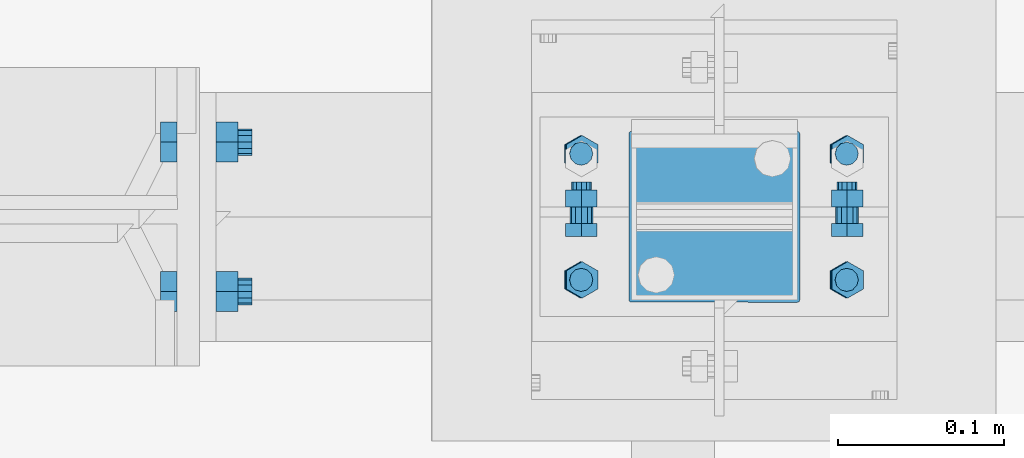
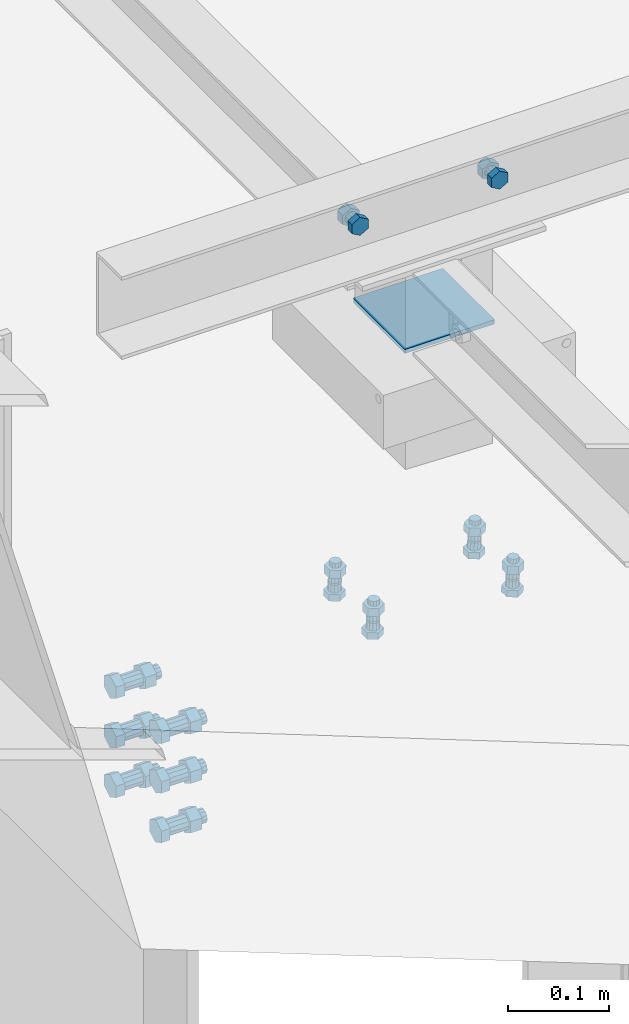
# One storey, part 321 of 3134: 5 mechanical fasteners, 5 elements without a shape of their own.
"""IFC2X3 building model written with IfcOpenShell, lengths in millimetres."""

from ifc_helpers import new_model, si_unit, frame, origin_with_axes, place, context, subcontext, project, spatial, faceted_brep, source, transform, mapped, material, type_object, element, aggregate, save


model = new_model("IFC2X3")

# Units and contexts
model_context = context("Model", 3, precision=1e-05, world=origin_with_axes())
body_context = subcontext(model_context, "Body", "Model", "MODEL_VIEW")
ifc_project = project(units=[si_unit("LENGTHUNIT", "METRE", prefix="MILLI"), si_unit("AREAUNIT", "SQUARE_METRE"), si_unit("VOLUMEUNIT", "CUBIC_METRE"), si_unit("MASSUNIT", "GRAM", prefix="KILO"), si_unit("TIMEUNIT", "SECOND"), si_unit("PLANEANGLEUNIT", "RADIAN"), si_unit("SOLIDANGLEUNIT", "STERADIAN"), si_unit("THERMODYNAMICTEMPERATUREUNIT", "DEGREE_CELSIUS"), si_unit("LUMINOUSINTENSITYUNIT", "LUMEN")], contexts=[model_context])

# Site, building, storey
site_placement = place(None, origin_with_axes())
site = spatial("IfcSite", under=ifc_project, at=site_placement, CompositionType="ELEMENT")
building_placement = place(site_placement, origin_with_axes())
building = spatial("IfcBuilding", under=site, at=building_placement, Name="Undefined", CompositionType="ELEMENT")
storey_placement = place(building_placement, origin_with_axes())
storey = spatial("IfcBuildingStorey", under=building, at=storey_placement, Name="Undefined", CompositionType="ELEMENT", Elevation=0.0)

# Assembly, mechanical fastener
assembly_1_placement = place(storey_placement, origin_with_axes())
assembly_1 = element("IfcElementAssembly", 1, at=assembly_1_placement, inside=storey, Name="IPE400", AssemblyPlace="NOTDEFINED", PredefinedType="RIGID_FRAME")
ifc_material_1 = material(Name="8.8")
mechanical_fastener_type = type_object("IfcMechanicalFastenerType", Name="Bolt assembly")
shared_shape_1 = source(origin_with_axes(), body_context, "Body", "Brep", [
    faceted_brep([(13.856406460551, -33.499999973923, 0.0), (6.92820323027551, -33.499999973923, 12.0), (-6.92820323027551, -33.499999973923, 12.0), (-13.856406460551, -33.499999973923, 1.69692038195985e-15), (-6.92820323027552, -33.499999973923, -12.0), (6.9282032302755, -33.499999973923, -12.0), (6.9282032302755, -23.499999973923, -12.0), (-6.92820323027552, -23.499999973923, -12.0), (-13.856406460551, -23.499999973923, 1.69692038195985e-15), (-6.92820323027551, -23.499999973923, 12.0), (6.92820323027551, -23.499999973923, 12.0), (13.856406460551, -23.499999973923, 0.0), (8.0, -23.499999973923, 0.0), (6.92820323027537, -23.499999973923, 4.00000000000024), (3.99999999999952, -23.499999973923, 6.92820323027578), (-8.29068785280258e-13, -23.499999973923, 8.0), (-4.00000000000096, -23.499999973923, 6.92820323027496), (-6.9282032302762, -23.499999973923, 3.99999999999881), (-8.0, -23.499999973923, -1.65813757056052e-12), (-6.92820323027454, -23.499999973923, -4.00000000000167), (-3.99999999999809, -23.499999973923, -6.92820323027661), (2.47832457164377e-12, -23.499999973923, -8.0), (4.00000000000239, -23.499999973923, -6.92820323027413), (6.92820323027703, -23.499999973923, -3.99999999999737), (6.92820323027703, 21.500000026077, -3.99999999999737), (4.00000000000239, 21.500000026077, -6.92820323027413), (2.47832457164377e-12, 21.500000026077, -8.0), (-3.99999999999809, 21.500000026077, -6.92820323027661), (-6.92820323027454, 21.500000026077, -4.00000000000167), (-8.0, 21.500000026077, -1.65813757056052e-12), (-6.9282032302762, 21.500000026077, 3.99999999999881), (-4.00000000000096, 21.500000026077, 6.92820323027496), (-8.29068785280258e-13, 21.500000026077, 8.0), (3.99999999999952, 21.500000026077, 6.92820323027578), (6.92820323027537, 21.500000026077, 4.00000000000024), (8.0, 21.500000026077, 0.0), (13.856406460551, 0.0, 0.0), (6.92820323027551, 0.0, 12.0), (-6.92820323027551, 0.0, 12.0), (-13.856406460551, 0.0, 1.69692038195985e-15), (-6.92820323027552, 0.0, -12.0), (6.9282032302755, 0.0, -12.0), (6.9282032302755, 12.9999996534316, -12.0), (-6.92820323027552, 12.9999996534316, -12.0), (-13.856406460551, 12.9999996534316, 1.69692038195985e-15), (-6.92820323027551, 12.9999996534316, 12.0), (6.92820323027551, 12.9999996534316, 12.0), (13.856406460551, 12.9999996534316, 0.0)], [[[0, 1, 2, 3, 4, 5]], [[6, 7, 8, 9, 10, 11]], [[0, 11, 10, 1]], [[1, 10, 9, 2]], [[2, 9, 8, 3]], [[3, 8, 7, 4]], [[4, 7, 6, 5]], [[5, 6, 11, 0]], [[12, 13, 14, 15, 16, 17, 18, 19, 20, 21, 22, 23]], [[24, 25, 26, 27, 28, 29, 30, 31, 32, 33, 34, 35]], [[12, 35, 34, 13]], [[13, 34, 33, 14]], [[14, 33, 32, 15]], [[15, 32, 31, 16]], [[16, 31, 30, 17]], [[17, 30, 29, 18]], [[18, 29, 28, 19]], [[19, 28, 27, 20]], [[20, 27, 26, 21]], [[21, 26, 25, 22]], [[22, 25, 24, 23]], [[23, 24, 35, 12]], [[36, 37, 38, 39, 40, 41]], [[42, 43, 44, 45, 46, 47]], [[36, 47, 46, 37]], [[37, 46, 45, 38]], [[38, 45, 44, 39]], [[39, 44, 43, 40]], [[40, 43, 42, 41]], [[41, 42, 47, 36]]]),
    faceted_brep([(9.0, -10.1000003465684, 0.0), (7.79422863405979, -10.1000003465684, 4.50000000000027), (4.49999999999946, -10.1000003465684, 7.79422863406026), (-9.3270238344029e-13, -10.1000003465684, 9.0), (-4.50000000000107, -10.1000003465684, 7.79422863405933), (-7.79422863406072, -10.1000003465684, 4.49999999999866), (-9.0, -10.1000003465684, -1.86540476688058e-12), (-7.79422863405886, -10.1000003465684, -4.50000000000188), (-4.49999999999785, -10.1000003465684, -7.79422863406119), (2.78811514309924e-12, -10.1000003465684, -9.0), (4.50000000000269, -10.1000003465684, -7.7942286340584), (7.79422863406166, -10.1000003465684, -4.49999999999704), (7.79422863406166, -3.46568413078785e-07, -4.49999999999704), (4.50000000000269, -3.46568413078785e-07, -7.7942286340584), (2.78811514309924e-12, -3.46568413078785e-07, -9.0), (-4.49999999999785, -3.46568413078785e-07, -7.79422863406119), (-7.79422863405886, -3.46568413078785e-07, -4.50000000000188), (-9.0, -3.46568413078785e-07, -1.86540476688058e-12), (-7.79422863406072, -3.46568413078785e-07, 4.49999999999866), (-4.50000000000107, -3.46568413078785e-07, 7.79422863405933), (-9.3270238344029e-13, -3.46568413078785e-07, 9.0), (4.49999999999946, -3.46568413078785e-07, 7.79422863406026), (7.79422863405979, -3.46568413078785e-07, 4.50000000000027), (9.0, -3.46568413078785e-07, 0.0), (9.0, -23.399999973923, 0.0), (7.79422863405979, -23.399999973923, 4.50000000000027), (4.49999999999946, -23.399999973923, 7.79422863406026), (-9.3270238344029e-13, -23.399999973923, 9.0), (-4.50000000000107, -23.399999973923, 7.79422863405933), (-7.79422863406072, -23.399999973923, 4.49999999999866), (-9.0, -23.399999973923, -1.86540476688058e-12), (-7.79422863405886, -23.399999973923, -4.50000000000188), (-4.49999999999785, -23.399999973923, -7.79422863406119), (2.78811514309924e-12, -23.399999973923, -9.0), (4.50000000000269, -23.399999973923, -7.7942286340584), (7.79422863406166, -23.399999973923, -4.49999999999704), (7.79422863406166, -9.89999997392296, -4.49999999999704), (4.50000000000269, -9.89999997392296, -7.7942286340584), (2.78811514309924e-12, -9.89999997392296, -9.0), (-4.49999999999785, -9.89999997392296, -7.79422863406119), (-7.79422863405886, -9.89999997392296, -4.50000000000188), (-9.0, -9.89999997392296, -1.86540476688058e-12), (-7.79422863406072, -9.89999997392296, 4.49999999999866), (-4.50000000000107, -9.89999997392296, 7.79422863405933), (-9.3270238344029e-13, -9.89999997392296, 9.0), (4.49999999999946, -9.89999997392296, 7.79422863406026), (7.79422863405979, -9.89999997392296, 4.50000000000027), (9.0, -9.89999997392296, 0.0)], [[[0, 1, 2, 3, 4, 5, 6, 7, 8, 9, 10, 11]], [[12, 13, 14, 15, 16, 17, 18, 19, 20, 21, 22, 23]], [[0, 23, 22, 1]], [[1, 22, 21, 2]], [[2, 21, 20, 3]], [[3, 20, 19, 4]], [[4, 19, 18, 5]], [[5, 18, 17, 6]], [[6, 17, 16, 7]], [[7, 16, 15, 8]], [[8, 15, 14, 9]], [[9, 14, 13, 10]], [[10, 13, 12, 11]], [[11, 12, 23, 0]], [[24, 25, 26, 27, 28, 29, 30, 31, 32, 33, 34, 35]], [[36, 37, 38, 39, 40, 41, 42, 43, 44, 45, 46, 47]], [[24, 47, 46, 25]], [[25, 46, 45, 26]], [[26, 45, 44, 27]], [[27, 44, 43, 28]], [[28, 43, 42, 29]], [[29, 42, 41, 30]], [[30, 41, 40, 31]], [[31, 40, 39, 32]], [[32, 39, 38, 33]], [[33, 38, 37, 34]], [[34, 37, 36, 35]], [[35, 36, 47, 24]]]),
])
mechanical_fastener_1_placement = place(assembly_1_placement, frame((67825.0000003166, 7650.0, 5261.47113578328), z_axis=(0.0, 1.0, 0.0), x_axis=(0.0, 0.0, 1.0)))
mechanical_fastener_1 = element("IfcMechanicalFastener", 2, at=mechanical_fastener_1_placement, type_object=mechanical_fastener_type, material=ifc_material_1, Name="Bolt assembly", NominalDiameter=16.0, NominalLength=45.0, context=body_context, shape_type="MappedRepresentation", body=[
    mapped(shared_shape_1, transform((0.0, 0.0, -45.0))),
    mapped(shared_shape_1, transform((60.0, 0.0, -45.0))),
    mapped(shared_shape_1, transform((120.0, 0.0, -45.0))),
    mapped(shared_shape_1, transform((0.0, 0.0, 45.0))),
    mapped(shared_shape_1, transform((60.0, 0.0, 45.0))),
    mapped(shared_shape_1, transform((120.0, 0.0, 45.0))),
])
aggregate(assembly_1, [mechanical_fastener_1])

assembly_2_placement = place(storey_placement, origin_with_axes())
assembly_2 = element("IfcElementAssembly", 3, at=assembly_2_placement, inside=storey, AssemblyPlace="NOTDEFINED", PredefinedType="RIGID_FRAME")
shared_shape_2 = source(origin_with_axes(), body_context, "Body", "Brep", [
    faceted_brep([(7.0, 13.0000253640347, 0.0), (6.06217782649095, 13.0000253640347, 3.50000000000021), (3.49999999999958, 13.0000253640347, 6.06217782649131), (-7.25435187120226e-13, 13.0000253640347, 7.0), (-3.50000000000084, 13.0000253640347, 6.06217782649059), (-6.06217782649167, 13.0000253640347, 3.49999999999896), (-7.0, 13.0000253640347, -1.45087037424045e-12), (-6.06217782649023, 13.0000253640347, -3.50000000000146), (-3.49999999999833, 13.0000253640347, -6.06217782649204), (2.1685340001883e-12, 13.0000253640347, -7.0), (3.50000000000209, 13.0000253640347, -6.06217782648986), (6.0621778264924, 13.0000253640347, -3.4999999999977), (6.0621778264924, 15.0999999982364, -3.4999999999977), (3.50000000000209, 15.0999999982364, -6.06217782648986), (2.1685340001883e-12, 15.0999999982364, -7.0), (-3.49999999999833, 15.0999999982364, -6.06217782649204), (-6.06217782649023, 15.0999999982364, -3.50000000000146), (-7.0, 15.0999999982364, -1.45087037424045e-12), (-6.06217782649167, 15.0999999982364, 3.49999999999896), (-3.50000000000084, 15.0999999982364, 6.06217782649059), (-7.25435187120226e-13, 15.0999999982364, 7.0), (3.49999999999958, 15.0999999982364, 6.06217782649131), (6.06217782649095, 15.0999999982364, 3.50000000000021), (7.0, 15.0999999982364, 0.0)], [[[0, 1, 2, 3, 4, 5, 6, 7, 8, 9, 10, 11]], [[12, 13, 14, 15, 16, 17, 18, 19, 20, 21, 22, 23]], [[0, 23, 22, 1]], [[1, 22, 21, 2]], [[2, 21, 20, 3]], [[3, 20, 19, 4]], [[4, 19, 18, 5]], [[5, 18, 17, 6]], [[6, 17, 16, 7]], [[7, 16, 15, 8]], [[8, 15, 14, 9]], [[9, 14, 13, 10]], [[10, 13, 12, 11]], [[11, 12, 23, 0]]]),
])
mechanical_fastener_2_placement = place(assembly_2_placement, frame((68124.3451187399, 7688.0, 5409.1772055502), z_axis=(-0.99951962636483, 0.0, 0.0309922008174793), x_axis=(0.0, -1.0, 0.0)))
mechanical_fastener_2 = element("IfcMechanicalFastener", 4, at=mechanical_fastener_2_placement, type_object=mechanical_fastener_type, material=ifc_material_1, Name="Bolt assembly", NominalDiameter=12.0, NominalLength=2.0, context=body_context, shape_type="MappedRepresentation", body=[
    mapped(shared_shape_2, transform((0.0, -5.32963895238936e-10, -79.9999999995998))),
    mapped(shared_shape_2, transform((76.0, -5.32963895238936e-10, -79.9999999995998))),
    mapped(shared_shape_2, transform((0.0, 5.3114490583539e-10, 79.9999999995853))),
    mapped(shared_shape_2, transform((76.0, 5.3114490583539e-10, 79.9999999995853))),
])
aggregate(assembly_2, [mechanical_fastener_2])

assembly_3_placement = place(storey_placement, origin_with_axes())
assembly_3 = element("IfcElementAssembly", 5, at=assembly_3_placement, inside=storey, AssemblyPlace="NOTDEFINED", PredefinedType="RIGID_FRAME")
ifc_material_2 = material(Name="6.8")
shared_shape_3 = source(origin_with_axes(), body_context, "Body", "Brep", [
    faceted_brep([(51.5, 1.36424205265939e-12, 50.0), (51.3858192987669, 1.36424205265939e-12, 50.5740251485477), (51.0606601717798, 1.36424205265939e-12, 51.0606601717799), (50.5740251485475, 1.36424205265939e-12, 51.385819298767), (-50.0000000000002, 1.36424205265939e-12, 51.5), (-50.7500000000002, 1.36424205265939e-12, 51.2990381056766), (-51.2990381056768, 1.36424205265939e-12, 50.7499999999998), (-51.5, 1.36424205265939e-12, 49.9999999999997), (-51.5, 1.36424205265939e-12, -50.0000000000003), (-51.2990381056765, 1.36424205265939e-12, -50.7500000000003), (-50.7499999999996, 1.36424205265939e-12, -51.2990381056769), (-49.9999999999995, 1.36424205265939e-12, -51.5), (50.0000000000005, 1.36424205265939e-12, -51.5), (50.7500000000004, 1.36424205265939e-12, -51.2990381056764), (51.2990381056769, 1.36424205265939e-12, -50.7499999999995), (51.5, 1.36424205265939e-12, -49.9999999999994), (51.5, 5.10000000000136, -49.9999999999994), (51.2990381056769, 5.10000000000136, -50.7499999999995), (50.7500000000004, 5.10000000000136, -51.2990381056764), (50.0000000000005, 5.10000000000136, -51.5), (-49.9999999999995, 5.10000000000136, -51.5), (-50.7499999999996, 5.10000000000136, -51.2990381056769), (-51.2990381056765, 5.10000000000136, -50.7500000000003), (-51.5, 5.10000000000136, -50.0000000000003), (-51.5, 5.10000000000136, 49.9999999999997), (-51.2990381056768, 5.10000000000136, 50.7499999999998), (-50.7500000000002, 5.10000000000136, 51.2990381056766), (-50.0000000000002, 5.10000000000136, 51.5), (50.5740251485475, 5.10000000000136, 51.385819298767), (51.0606601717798, 5.10000000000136, 51.0606601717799), (51.3858192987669, 5.10000000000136, 50.5740251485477), (51.5, 5.10000000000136, 50.0)], [[[0, 1, 2, 3, 4, 5, 6, 7, 8, 9, 10, 11, 12, 13, 14, 15]], [[16, 17, 18, 19, 20, 21, 22, 23, 24, 25, 26, 27, 28, 29, 30, 31]], [[0, 31, 30, 1]], [[1, 30, 29, 2]], [[2, 29, 28, 3]], [[3, 28, 27, 4]], [[4, 27, 26, 5]], [[5, 26, 25, 6]], [[6, 25, 24, 7]], [[7, 24, 23, 8]], [[8, 23, 22, 9]], [[9, 22, 21, 10]], [[10, 21, 20, 11]], [[11, 20, 19, 12]], [[12, 19, 18, 13]], [[13, 18, 17, 14]], [[14, 17, 16, 15]], [[15, 16, 31, 0]]]),
])
mechanical_fastener_3_placement = place(assembly_3_placement, frame((68125.0, 7650.0, 5750.0), z_axis=(0.0, -1.0, 0.0), x_axis=(-1.0, 0.0, 0.0)))
mechanical_fastener_3 = element("IfcMechanicalFastener", 6, at=mechanical_fastener_3_placement, type_object=mechanical_fastener_type, material=ifc_material_2, Name="Bolt assembly", NominalDiameter=10.0, NominalLength=5.0, context=body_context, shape_type="MappedRepresentation", body=[
    mapped(shared_shape_3, transform((0.0, 0.0, 0.0))),
])
aggregate(assembly_3, [mechanical_fastener_3])

assembly_4_placement = place(storey_placement, origin_with_axes())
assembly_4 = element("IfcElementAssembly", 7, at=assembly_4_placement, inside=storey, AssemblyPlace="NOTDEFINED", PredefinedType="RIGID_FRAME")
shared_shape_4 = source(origin_with_axes(), body_context, "Body", "Brep", [
    faceted_brep([(10.9696551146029, -12.0, 0.0), (5.48482755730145, -12.0, 9.5), (-5.48482755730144, -12.0, 9.5), (-10.9696551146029, -12.0, 1.34339530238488e-15), (-5.48482755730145, -12.0, -9.5), (5.48482755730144, -12.0, -9.50000000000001), (5.48482755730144, -4.0, -9.50000000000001), (-5.48482755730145, -4.0, -9.5), (-10.9696551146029, -4.0, 1.34339530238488e-15), (-5.48482755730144, -4.0, 9.5), (5.48482755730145, -4.0, 9.5), (10.9696551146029, -4.0, 0.0), (6.0, -4.0, 0.0), (5.19615242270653, -4.0, 3.00000000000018), (2.99999999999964, -4.0, 5.19615242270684), (-6.21801588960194e-13, -4.0, 6.0), (-3.00000000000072, -4.0, 5.19615242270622), (-5.19615242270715, -4.0, 2.9999999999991), (-6.0, -4.0, -1.24360317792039e-12), (-5.19615242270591, -4.0, -3.00000000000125), (-2.99999999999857, -4.0, -5.19615242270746), (1.85874342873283e-12, -4.0, -6.0), (3.00000000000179, -4.0, -5.1961524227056), (5.19615242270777, -4.0, -2.99999999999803), (5.19615242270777, 21.0, -2.99999999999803), (3.00000000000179, 21.0, -5.1961524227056), (1.85874342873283e-12, 21.0, -6.0), (-2.99999999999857, 21.0, -5.19615242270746), (-5.19615242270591, 21.0, -3.00000000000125), (-6.0, 21.0, -1.24360317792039e-12), (-5.19615242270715, 21.0, 2.9999999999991), (-3.00000000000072, 21.0, 5.19615242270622), (-6.21801588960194e-13, 21.0, 6.0), (2.99999999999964, 21.0, 5.19615242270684), (5.19615242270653, 21.0, 3.00000000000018), (6.0, 21.0, 0.0), (10.9696551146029, 6.00000000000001, 0.0), (5.48482755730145, 6.00000000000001, 9.5), (-5.48482755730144, 6.00000000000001, 9.5), (-10.9696551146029, 6.00000000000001, 1.34339530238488e-15), (-5.48482755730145, 6.00000000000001, -9.5), (5.48482755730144, 6.00000000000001, -9.50000000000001), (5.48482755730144, 16.0, -9.50000000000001), (-5.48482755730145, 16.0, -9.5), (-10.9696551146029, 16.0, 1.34339530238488e-15), (-5.48482755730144, 16.0, 9.5), (5.48482755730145, 16.0, 9.5), (10.9696551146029, 16.0, 0.0)], [[[0, 1, 2, 3, 4, 5]], [[6, 7, 8, 9, 10, 11]], [[0, 11, 10, 1]], [[1, 10, 9, 2]], [[2, 9, 8, 3]], [[3, 8, 7, 4]], [[4, 7, 6, 5]], [[5, 6, 11, 0]], [[12, 13, 14, 15, 16, 17, 18, 19, 20, 21, 22, 23]], [[24, 25, 26, 27, 28, 29, 30, 31, 32, 33, 34, 35]], [[12, 35, 34, 13]], [[13, 34, 33, 14]], [[14, 33, 32, 15]], [[15, 32, 31, 16]], [[16, 31, 30, 17]], [[17, 30, 29, 18]], [[18, 29, 28, 19]], [[19, 28, 27, 20]], [[20, 27, 26, 21]], [[21, 26, 25, 22]], [[22, 25, 24, 23]], [[23, 24, 35, 12]], [[36, 37, 38, 39, 40, 41]], [[42, 43, 44, 45, 46, 47]], [[36, 47, 46, 37]], [[37, 46, 45, 38]], [[38, 45, 44, 39]], [[39, 44, 43, 40]], [[40, 43, 42, 41]], [[41, 42, 47, 36]]]),
    faceted_brep([(7.0, -3.9, 0.0), (6.06217782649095, -3.9, 3.50000000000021), (3.49999999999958, -3.9, 6.06217782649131), (-7.25435187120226e-13, -3.9, 7.0), (-3.50000000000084, -3.9, 6.06217782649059), (-6.06217782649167, -3.9, 3.49999999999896), (-7.0, -3.9, -1.45087037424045e-12), (-6.06217782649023, -3.9, -3.50000000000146), (-3.49999999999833, -3.9, -6.06217782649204), (2.1685340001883e-12, -3.9, -7.0), (3.50000000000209, -3.9, -6.06217782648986), (6.0621778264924, -3.9, -3.4999999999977), (6.0621778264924, 0.0999999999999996, -3.4999999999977), (3.50000000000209, 0.0999999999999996, -6.06217782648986), (2.1685340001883e-12, 0.0999999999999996, -7.0), (-3.49999999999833, 0.0999999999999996, -6.06217782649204), (-6.06217782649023, 0.0999999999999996, -3.50000000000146), (-7.0, 0.0999999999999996, -1.45087037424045e-12), (-6.06217782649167, 0.0999999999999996, 3.49999999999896), (-3.50000000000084, 0.0999999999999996, 6.06217782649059), (-7.25435187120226e-13, 0.0999999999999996, 7.0), (3.49999999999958, 0.0999999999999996, 6.06217782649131), (6.06217782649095, 0.0999999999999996, 3.50000000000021), (7.0, 0.0999999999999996, 0.0), (7.0, -0.1, 0.0), (6.06217782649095, -0.1, 3.50000000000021), (3.49999999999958, -0.1, 6.06217782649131), (-7.25435187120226e-13, -0.1, 7.0), (-3.50000000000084, -0.1, 6.06217782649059), (-6.06217782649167, -0.1, 3.49999999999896), (-7.0, -0.1, -1.45087037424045e-12), (-6.06217782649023, -0.1, -3.50000000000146), (-3.49999999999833, -0.1, -6.06217782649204), (2.1685340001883e-12, -0.1, -7.0), (3.50000000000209, -0.1, -6.06217782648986), (6.0621778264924, -0.1, -3.4999999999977), (6.0621778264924, 6.00000000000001, -3.4999999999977), (3.50000000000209, 6.00000000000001, -6.06217782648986), (2.1685340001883e-12, 6.00000000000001, -7.0), (-3.49999999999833, 6.00000000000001, -6.06217782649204), (-6.06217782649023, 6.00000000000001, -3.50000000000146), (-7.0, 6.00000000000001, -1.45087037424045e-12), (-6.06217782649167, 6.00000000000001, 3.49999999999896), (-3.50000000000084, 6.00000000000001, 6.06217782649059), (-7.25435187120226e-13, 6.00000000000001, 7.0), (3.49999999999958, 6.00000000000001, 6.06217782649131), (6.06217782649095, 6.00000000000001, 3.50000000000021), (7.0, 6.00000000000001, 0.0)], [[[0, 1, 2, 3, 4, 5, 6, 7, 8, 9, 10, 11]], [[12, 13, 14, 15, 16, 17, 18, 19, 20, 21, 22, 23]], [[0, 23, 22, 1]], [[1, 22, 21, 2]], [[2, 21, 20, 3]], [[3, 20, 19, 4]], [[4, 19, 18, 5]], [[5, 18, 17, 6]], [[6, 17, 16, 7]], [[7, 16, 15, 8]], [[8, 15, 14, 9]], [[9, 14, 13, 10]], [[10, 13, 12, 11]], [[11, 12, 23, 0]], [[24, 25, 26, 27, 28, 29, 30, 31, 32, 33, 34, 35]], [[36, 37, 38, 39, 40, 41, 42, 43, 44, 45, 46, 47]], [[24, 47, 46, 25]], [[25, 46, 45, 26]], [[26, 45, 44, 27]], [[27, 44, 43, 28]], [[28, 43, 42, 29]], [[29, 42, 41, 30]], [[30, 41, 40, 31]], [[31, 40, 39, 32]], [[32, 39, 38, 33]], [[33, 38, 37, 34]], [[34, 37, 36, 35]], [[35, 36, 47, 24]]]),
])
mechanical_fastener_4_placement = place(assembly_4_placement, frame((68125.0, 7650.0, 5885.0), z_axis=(1.0, 0.0, 0.0), x_axis=(0.0, 0.0, -1.0)))
mechanical_fastener_4 = element("IfcMechanicalFastener", 8, at=mechanical_fastener_4_placement, type_object=mechanical_fastener_type, material=ifc_material_1, Name="Bolt assembly", NominalDiameter=12.0, NominalLength=25.0, context=body_context, shape_type="MappedRepresentation", body=[
    mapped(shared_shape_4, transform((0.0, -5.32963895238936e-10, -79.9999999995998))),
    mapped(shared_shape_4, transform((0.0, 5.3114490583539e-10, 79.9999999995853))),
])
aggregate(assembly_4, [mechanical_fastener_4])

assembly_5_placement = place(storey_placement, origin_with_axes())
assembly_5 = element("IfcElementAssembly", 9, at=assembly_5_placement, inside=storey, Name="300", AssemblyPlace="NOTDEFINED", PredefinedType="RIGID_FRAME")
shared_shape_5 = source(origin_with_axes(), body_context, "Body", "Brep", [
    faceted_brep([(10.9696551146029, -10.2005960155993, 0.0), (5.48482755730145, -10.2005960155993, 9.5), (-5.48482755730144, -10.2005960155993, 9.5), (-10.9696551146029, -10.2005960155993, 1.34339530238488e-15), (-5.48482755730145, -10.2005960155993, -9.5), (5.48482755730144, -10.2005960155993, -9.50000000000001), (5.48482755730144, -2.20059601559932, -9.50000000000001), (-5.48482755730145, -2.20059601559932, -9.5), (-10.9696551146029, -2.20059601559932, 1.34339530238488e-15), (-5.48482755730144, -2.20059601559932, 9.5), (5.48482755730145, -2.20059601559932, 9.5), (10.9696551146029, -2.20059601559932, 0.0), (6.0, -2.20059601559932, 0.0), (5.19615242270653, -2.20059601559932, 3.00000000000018), (2.99999999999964, -2.20059601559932, 5.19615242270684), (-6.21801588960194e-13, -2.20059601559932, 6.0), (-3.00000000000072, -2.20059601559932, 5.19615242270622), (-5.19615242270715, -2.20059601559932, 2.9999999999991), (-6.0, -2.20059601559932, -1.24360317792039e-12), (-5.19615242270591, -2.20059601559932, -3.00000000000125), (-2.99999999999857, -2.20059601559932, -5.19615242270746), (1.85874342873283e-12, -2.20059601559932, -6.0), (3.00000000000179, -2.20059601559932, -5.1961524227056), (5.19615242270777, -2.20059601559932, -2.99999999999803), (5.19615242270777, 32.7994039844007, -2.99999999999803), (3.00000000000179, 32.7994039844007, -5.1961524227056), (1.85874342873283e-12, 32.7994039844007, -6.0), (-2.99999999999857, 32.7994039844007, -5.19615242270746), (-5.19615242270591, 32.7994039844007, -3.00000000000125), (-6.0, 32.7994039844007, -1.24360317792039e-12), (-5.19615242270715, 32.7994039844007, 2.9999999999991), (-3.00000000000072, 32.7994039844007, 5.19615242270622), (-6.21801588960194e-13, 32.7994039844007, 6.0), (2.99999999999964, 32.7994039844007, 5.19615242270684), (5.19615242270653, 32.7994039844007, 3.00000000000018), (6.0, 32.7994039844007, 0.0), (10.9696551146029, 17.0008987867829, 0.0), (5.48482755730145, 17.0008987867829, 9.5), (-5.48482755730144, 17.0008987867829, 9.5), (-10.9696551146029, 17.0008987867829, 1.34339530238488e-15), (-5.48482755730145, 17.0008987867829, -9.5), (5.48482755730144, 17.0008987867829, -9.50000000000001), (5.48482755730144, 27.0008987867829, -9.50000000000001), (-5.48482755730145, 27.0008987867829, -9.5), (-10.9696551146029, 27.0008987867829, 1.34339530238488e-15), (-5.48482755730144, 27.0008987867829, 9.5), (5.48482755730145, 27.0008987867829, 9.5), (10.9696551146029, 27.0008987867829, 0.0)], [[[0, 1, 2, 3, 4, 5]], [[6, 7, 8, 9, 10, 11]], [[0, 11, 10, 1]], [[1, 10, 9, 2]], [[2, 9, 8, 3]], [[3, 8, 7, 4]], [[4, 7, 6, 5]], [[5, 6, 11, 0]], [[12, 13, 14, 15, 16, 17, 18, 19, 20, 21, 22, 23]], [[24, 25, 26, 27, 28, 29, 30, 31, 32, 33, 34, 35]], [[12, 35, 34, 13]], [[13, 34, 33, 14]], [[14, 33, 32, 15]], [[15, 32, 31, 16]], [[16, 31, 30, 17]], [[17, 30, 29, 18]], [[18, 29, 28, 19]], [[19, 28, 27, 20]], [[20, 27, 26, 21]], [[21, 26, 25, 22]], [[22, 25, 24, 23]], [[23, 24, 35, 12]], [[36, 37, 38, 39, 40, 41]], [[42, 43, 44, 45, 46, 47]], [[36, 47, 46, 37]], [[37, 46, 45, 38]], [[38, 45, 44, 39]], [[39, 44, 43, 40]], [[40, 43, 42, 41]], [[41, 42, 47, 36]]]),
    faceted_brep([(7.0, 8.90089878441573, 0.0), (6.06217782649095, 8.90089878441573, 3.50000000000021), (3.49999999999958, 8.90089878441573, 6.06217782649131), (-7.25435187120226e-13, 8.90089878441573, 7.0), (-3.50000000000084, 8.90089878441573, 6.06217782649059), (-6.06217782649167, 8.90089878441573, 3.49999999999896), (-7.0, 8.90089878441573, -1.45087037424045e-12), (-6.06217782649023, 8.90089878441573, -3.50000000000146), (-3.49999999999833, 8.90089878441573, -6.06217782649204), (2.1685340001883e-12, 8.90089878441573, -7.0), (3.50000000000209, 8.90089878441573, -6.06217782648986), (6.0621778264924, 8.90089878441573, -3.4999999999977), (6.0621778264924, 17.0008987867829, -3.4999999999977), (3.50000000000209, 17.0008987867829, -6.06217782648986), (2.1685340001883e-12, 17.0008987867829, -7.0), (-3.49999999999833, 17.0008987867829, -6.06217782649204), (-6.06217782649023, 17.0008987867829, -3.50000000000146), (-7.0, 17.0008987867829, -1.45087037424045e-12), (-6.06217782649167, 17.0008987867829, 3.49999999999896), (-3.50000000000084, 17.0008987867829, 6.06217782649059), (-7.25435187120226e-13, 17.0008987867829, 7.0), (3.49999999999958, 17.0008987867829, 6.06217782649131), (6.06217782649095, 17.0008987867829, 3.50000000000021), (7.0, 17.0008987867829, 0.0), (7.0, -2.10059601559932, 0.0), (6.06217782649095, -2.10059601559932, 3.50000000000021), (3.49999999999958, -2.10059601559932, 6.06217782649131), (-7.25435187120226e-13, -2.10059601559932, 7.0), (-3.50000000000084, -2.10059601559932, 6.06217782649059), (-6.06217782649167, -2.10059601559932, 3.49999999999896), (-7.0, -2.10059601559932, -1.45087037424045e-12), (-6.06217782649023, -2.10059601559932, -3.50000000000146), (-3.49999999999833, -2.10059601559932, -6.06217782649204), (2.1685340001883e-12, -2.10059601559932, -7.0), (3.50000000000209, -2.10059601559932, -6.06217782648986), (6.0621778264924, -2.10059601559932, -3.4999999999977), (6.0621778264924, 7.09940379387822, -3.4999999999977), (3.50000000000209, 7.09940379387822, -6.06217782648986), (2.1685340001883e-12, 7.09940379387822, -7.0), (-3.49999999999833, 7.09940379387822, -6.06217782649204), (-6.06217782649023, 7.09940379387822, -3.50000000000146), (-7.0, 7.09940379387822, -1.45087037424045e-12), (-6.06217782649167, 7.09940379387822, 3.49999999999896), (-3.50000000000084, 7.09940379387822, 6.06217782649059), (-7.25435187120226e-13, 7.09940379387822, 7.0), (3.49999999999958, 7.09940379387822, 6.06217782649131), (6.06217782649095, 7.09940379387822, 3.50000000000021), (7.0, 7.09940379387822, 0.0)], [[[0, 1, 2, 3, 4, 5, 6, 7, 8, 9, 10, 11]], [[12, 13, 14, 15, 16, 17, 18, 19, 20, 21, 22, 23]], [[0, 23, 22, 1]], [[1, 22, 21, 2]], [[2, 21, 20, 3]], [[3, 20, 19, 4]], [[4, 19, 18, 5]], [[5, 18, 17, 6]], [[6, 17, 16, 7]], [[7, 16, 15, 8]], [[8, 15, 14, 9]], [[9, 14, 13, 10]], [[10, 13, 12, 11]], [[11, 12, 23, 0]], [[24, 25, 26, 27, 28, 29, 30, 31, 32, 33, 34, 35]], [[36, 37, 38, 39, 40, 41, 42, 43, 44, 45, 46, 47]], [[24, 47, 46, 25]], [[25, 46, 45, 26]], [[26, 45, 44, 27]], [[27, 44, 43, 28]], [[28, 43, 42, 29]], [[29, 42, 41, 30]], [[30, 41, 40, 31]], [[31, 40, 39, 32]], [[32, 39, 38, 33]], [[33, 38, 37, 34]], [[34, 37, 36, 35]], [[35, 36, 47, 24]]]),
])
mechanical_fastener_5_placement = place(assembly_5_placement, frame((68124.5351187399, 7688.0, 5415.1872055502), z_axis=(-0.99951962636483, 0.0, 0.0309922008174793), x_axis=(0.0, -1.0, 0.0)))
mechanical_fastener_5 = element("IfcMechanicalFastener", 10, at=mechanical_fastener_5_placement, type_object=mechanical_fastener_type, material=ifc_material_1, Name="Bolt assembly", NominalDiameter=12.0, NominalLength=35.0, context=body_context, shape_type="MappedRepresentation", body=[
    mapped(shared_shape_5, transform((0.0, -5.32963895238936e-10, -79.9999999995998))),
    mapped(shared_shape_5, transform((76.0, -5.32963895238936e-10, -79.9999999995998))),
    mapped(shared_shape_5, transform((0.0, 5.3114490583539e-10, 79.9999999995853))),
    mapped(shared_shape_5, transform((76.0, 5.3114490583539e-10, 79.9999999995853))),
])
aggregate(assembly_5, [mechanical_fastener_5])

save(model, "model.ifc")
